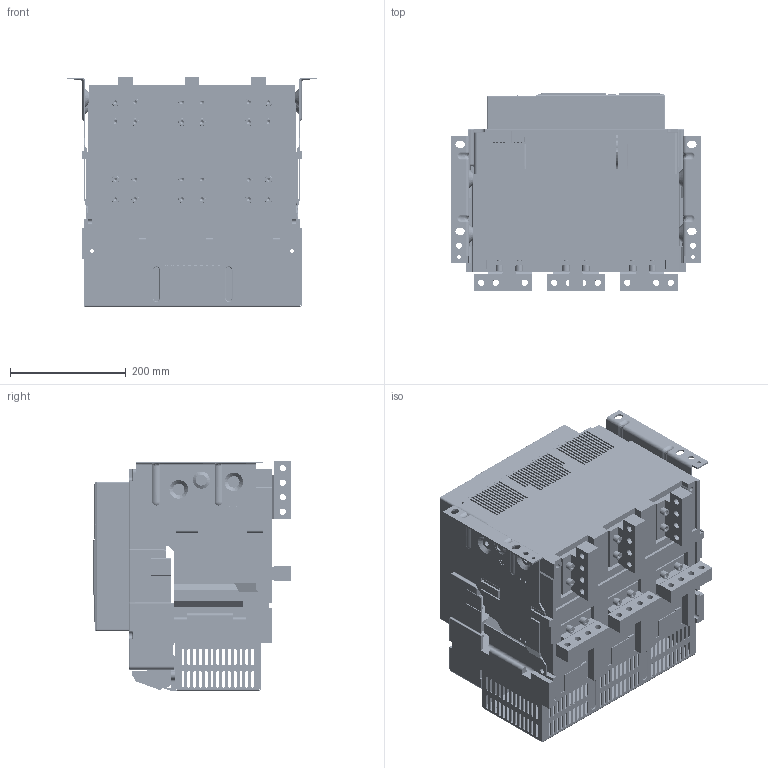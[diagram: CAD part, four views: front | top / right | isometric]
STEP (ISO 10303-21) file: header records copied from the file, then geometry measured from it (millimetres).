
FILE_DESCRIPTION((''),'2;1');
FILE_NAME('NA8-4000H-3P-F-3200A-4000A-HV_ASM','2021-11-10T17:06:18',('lcc'),(''),'CREO PARAMETRIC BY PTC INC, 2020044','CREO PARAMETRIC BY PTC INC, 2020044','');
FILE_SCHEMA(('CONFIG_CONTROL_DESIGN','SHAPE_APPEARANCE_LAYERS_GROUPS'));
Products named in the file (35): 4000-JIZUO-3P; 4000-DIBAN-3P; 8ZTD_123_166_2; 8ZTD_123_167_2; DEFAULT_BREP_X_03-883; DEFAULT_BREP_X_03-884; DEFAULT_BREP_X_03-885; DEFAULT_BREP_X_03-886; DEFAULT_BREP_X_03-887; DEFAULT_BREP_X_03-888; DEFAULT_BREP_X_03-889; 8ZTD_060_209_V4_1_ASM; 8ZTD-253-577; 8ZTD-253-779; 8ZTD-253-780; 8ZTD-321-090; 8-040-432; 8-004-030; 8-320-094; 8-860-KZQ; 8ZTD-253-782; 5ZTD-060-114-2_ASM; 8060A0306108; 8060A0306109; 3P-8300A0306005_; 8ZTD-064-138; 8ZTD-024-689; 8ZTD-860-511; 1600-DUANZI-CTS_ASM; 8580A0412011; 8580A0412010; GBT70_1-M8X20; GB93-8_1; QNKJ_0200012_2-M8X20_ASM; NA8-4000H-3P-F-3200A-4000A-HV_ASM
Assembly tree (74 placements, depth 4):
  NA8-4000H-3P-F-3200A-4000A-HV_ASM
    4000-JIZUO-3P
    4000-DIBAN-3P
    8ZTD_123_166_2
    8ZTD_123_167_2
    5ZTD-060-114-2_ASM
      8ZTD_060_209_V4_1_ASM
        DEFAULT_BREP_X_03-883
        DEFAULT_BREP_X_03-884
        DEFAULT_BREP_X_03-885
        DEFAULT_BREP_X_03-886
        DEFAULT_BREP_X_03-887
        DEFAULT_BREP_X_03-888
        DEFAULT_BREP_X_03-889
      8ZTD-253-577
      8ZTD-253-779
      8ZTD-253-780
      8ZTD-321-090
      8-040-432
      8-004-030
      8-320-094
      8-860-KZQ
      8ZTD-253-782
    8060A0306108
    8060A0306109
    3P-8300A0306005_
    1600-DUANZI-CTS_ASM
      8ZTD-064-138
      8ZTD-024-689  x14
      8ZTD-860-511
    8580A0412011  x5
    8580A0412010
    QNKJ_0200012_2-M8X20_ASM  x24
      GBT70_1-M8X20
      GB93-8_1
Bounding box: 430 x 341.12 x 397 mm (x, y, z)
Volume: 19587634.1 mm3; surface area: 2504836.1 mm2
Topology: 93 solids, 139 shells, 8794 faces, 23927 edges, 15562 vertices
Faces by surface type: plane 6119, cylinder 1710, cone 407, extrusion 225, bspline 180, torus 113, sphere 40
Entity records: 285822 total; most frequent: CARTESIAN_POINT 55482, ORIENTED_EDGE 33050, DIRECTION 30000, PRESENTATION_STYLE_ASSIGNMENT 19420, STYLED_ITEM 19300, EDGE_CURVE 16543, CURVE_STYLE 15140, VECTOR 12454
